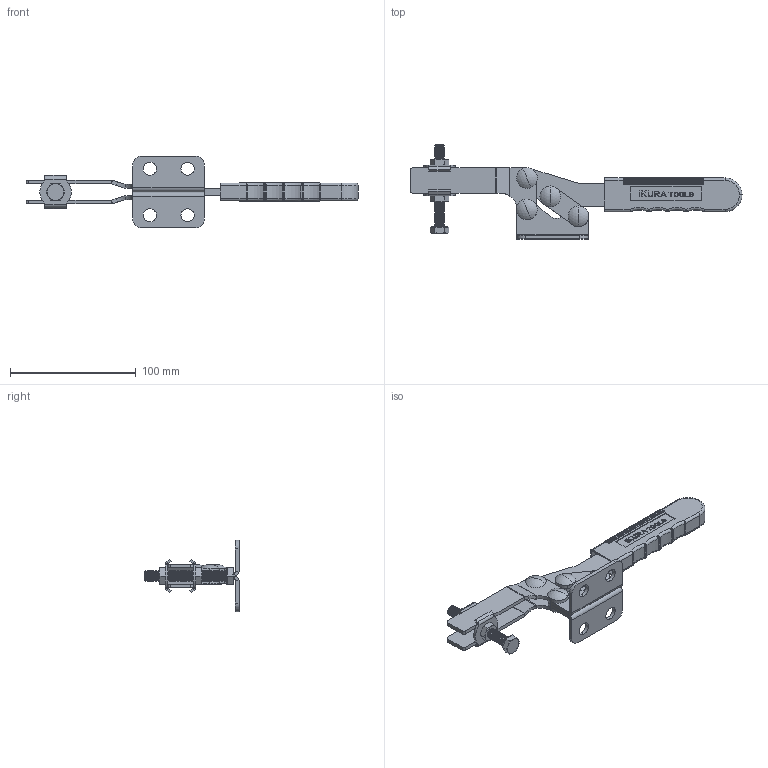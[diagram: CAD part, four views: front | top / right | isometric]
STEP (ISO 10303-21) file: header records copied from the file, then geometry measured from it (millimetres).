
FILE_DESCRIPTION (( 'STEP AP214' ), '1' );
FILE_NAME ('ISK-38B‘å0.STEP', '2015-06-29T09:57:23', ( '' ), ( '' ), 'SwSTEP 2.0', 'SolidWorks 2015', '' );
FILE_SCHEMA (( 'AUTOMOTIVE_DESIGN' ));
Length unit declared in the file: millimetre
Products named in the file (10): flat round head rivets gb_GB_RIVETS_ROUND_TYPE83 8X13; hexagon nut_3_jis_JIS B 1181 Hexagon nut - Class 3 Finished M8 --N; continuous thread hexagon head bolt_a_jis_JIS B 1180 Continuous thread hexagon head bolt A M8 x 65 --S; Washer_D8-20; Grip; Link; Handle; Arm; Base; ISK-38B大0
Assembly tree (15 placements, depth 2):
  ISK-38B大0
    Base
    Arm
    Handle
    Link  x2
    Grip
    Washer_D8-20  x2
    continuous thread hexagon head bolt_a_jis_JIS B 1180 Continuous thread hexagon head bolt A M8 x 65 --S
    hexagon nut_3_jis_JIS B 1181 Hexagon nut - Class 3 Finished M8 --N  x2
    flat round head rivets gb_GB_RIVETS_ROUND_TYPE83 8X13  x4
Bounding box: 264.14 x 74.81 x 57 mm (x, y, z)
Volume: 86515.1 mm3; surface area: 56850.3 mm2
Topology: 17 solids, 17 shells, 1796 faces, 4898 edges, 3156 vertices
Faces by surface type: plane 859, cylinder 501, cone 244, bspline 146, sphere 24, torus 22
Entity records: 60780 total; most frequent: CARTESIAN_POINT 16755, ORIENTED_EDGE 9388, DIRECTION 8844, EDGE_CURVE 4694, VERTEX_POINT 3043, VECTOR 3036, LINE 3036, AXIS2_PLACEMENT_3D 2904
